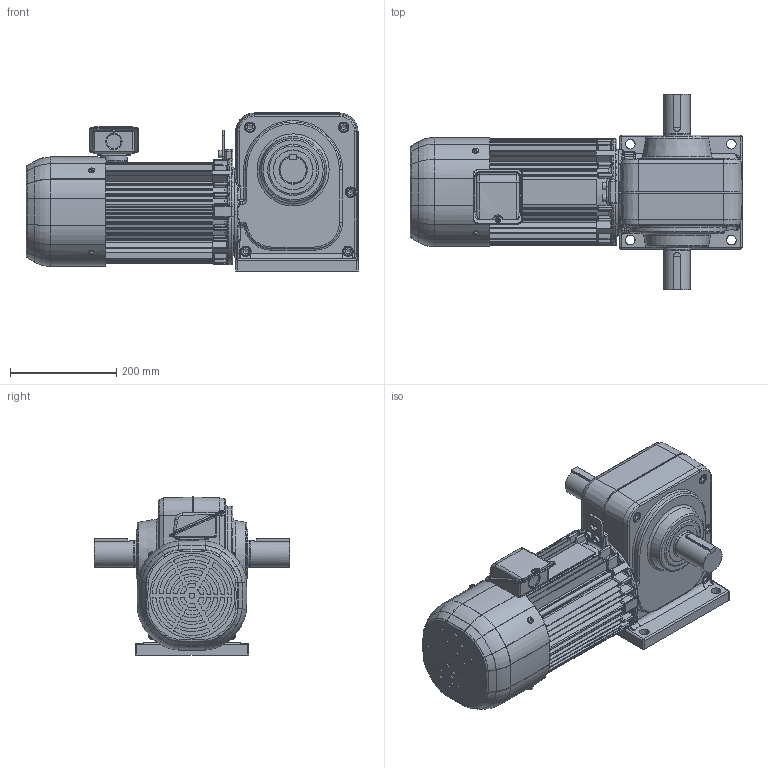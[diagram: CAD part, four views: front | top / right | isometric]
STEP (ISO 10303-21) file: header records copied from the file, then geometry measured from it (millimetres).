
FILE_DESCRIPTION( ( 'Unknown' ), '1' );
FILE_NAME( 'X:/gear/gm/3D-WEB/IE3/SHYP/ﾊﾟｰﾂ/完成品/shypbrt_22_5-120.stp', 'Unknown', ( 'Unknown' ), ( 'Unknown' ), 'PSStep 14.0', 'Unknown', ' ' );
FILE_SCHEMA( ( 'AUTOMOTIVE_DESIGN { 1 0 10303 214 1 1 1 1 }' ) );
Length unit declared in the file: millimetre
Products named in the file (7): P164064H13_ｷﾞﾔｹｰｽ(E)
Bounding box: 624 x 368 x 297 mm (x, y, z)
Volume: 12770495.5 mm3; surface area: 1496936.7 mm2
Topology: 7 solids, 22 shells, 2136 faces, 5285 edges, 3237 vertices
Faces by surface type: cylinder 822, plane 786, bspline 223, torus 210, cone 79, sphere 16
Full cylindrical faces by diameter (mm): 3.8 x2, 4.2 x8, 4.8 x1, 5 x4, 5.5 x4, 5.6 x1, 5.8 x4, 6 x8, 6.647 x8, 7 x1, 8 x8, 8.376 x4, 9 x4, 9.5 x4, 10 x12, 11 x4, 12 x9, 13 x2, 14 x5, 18 x9, 20 x6, 23 x1, 25 x3, 26.3 x1, 28.6 x1, 48 x2, 50 x3, 51.2 x1, 52 x2, 52.1 x2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
Entity records: 117142 total; most frequent: CARTESIAN_POINT 51224, DIRECTION 10473, ORIENTED_EDGE 9836, EDGE_CURVE 4918, AXIS2_PLACEMENT_3D 4155, VERTEX_POINT 3162, EDGE_LOOP 2517, FACE_OUTER_BOUND 2313
